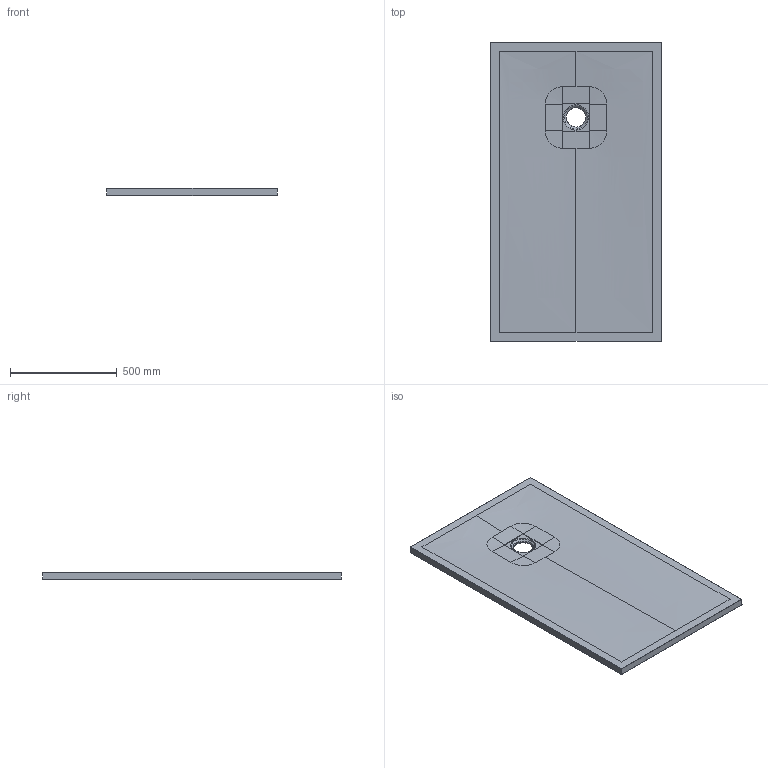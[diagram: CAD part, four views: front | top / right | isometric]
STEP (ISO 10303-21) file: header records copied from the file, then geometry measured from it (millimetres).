
FILE_DESCRIPTION(/* description */ (''),/* implementation_level */ '2;1');
FILE_NAME(/* name */ '1400X800.stp',/* time_stamp */ '2022-02-25T14:26:41+01:00',/* author */ (''),/* organization */ (''),/* preprocessor_version */ 'ST-DEVELOPER v18.1',/* originating_system */ 'SIEMENS PLM Software NX 1973',/* authorisation */ '');
FILE_SCHEMA (('AUTOMOTIVE_DESIGN { 1 0 10303 214 3 1 1 1 }'));
Length unit declared in the file: millimetre
Products named in the file (1): Cava2B7C939Cut6s
Bounding box: 799.98 x 1399.98 x 33 mm (x, y, z)
Volume: 32538934.7 mm3; surface area: 2357807.8 mm2
Topology: 1 solids, 1 shells, 58 faces, 135 edges, 74 vertices
Faces by surface type: bspline 22, cylinder 14, plane 13, sphere 8, cone 1
Full cylindrical faces by diameter (mm): 8 x2
Entity records: 4669 total; most frequent: CARTESIAN_POINT 3570, ORIENTED_EDGE 246, DIRECTION 164, EDGE_CURVE 123, VERTEX_POINT 73, AXIS2_PLACEMENT_3D 70, EDGE_LOOP 66, B_SPLINE_CURVE_WITH_KNOTS 66
